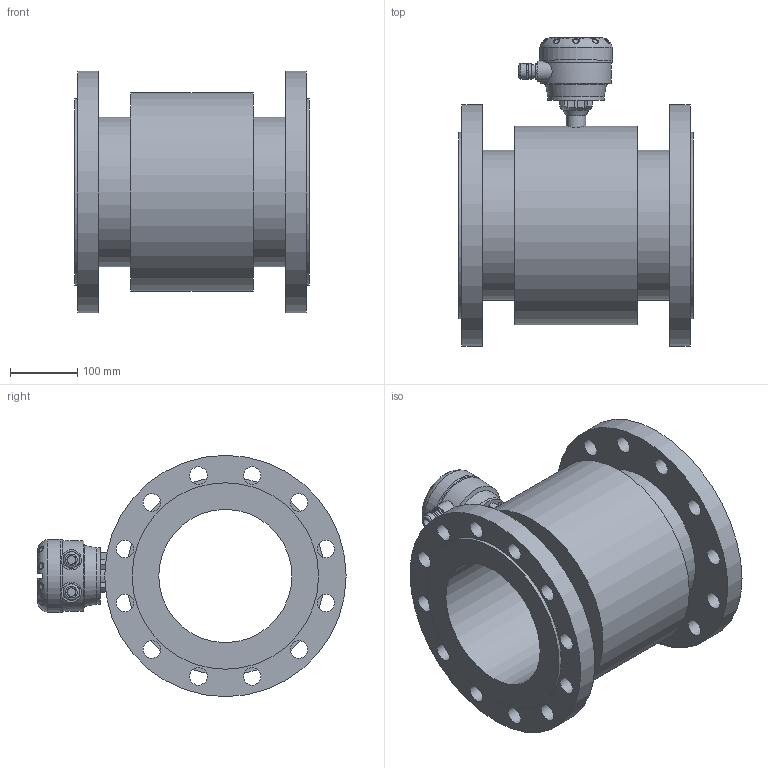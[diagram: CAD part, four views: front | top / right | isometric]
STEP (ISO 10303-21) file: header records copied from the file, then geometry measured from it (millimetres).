
FILE_DESCRIPTION (( 'STEP AP203' ), '1' );
FILE_NAME ('KROHNE_OPTIFLUX_2-4000W_DIN2634_DN200_PN25.STEP', '2011-04-26T11:25:04', ( '' ), ( '' ), 'SwSTEP 2.0', 'SolidWorks 2010', '' );
FILE_SCHEMA (( 'CONFIG_CONTROL_DESIGN' ));
Length unit declared in the file: millimetre
Products named in the file (1): KROHNE_OPTIFLUX_2-4000W_DIN2634_DN200_PN25
Bounding box: 350 x 459.49 x 360 mm (x, y, z)
Volume: 12664422.7 mm3; surface area: 995292.9 mm2
Topology: 14 solids, 14 shells, 351 faces, 869 edges, 568 vertices
Faces by surface type: plane 158, cylinder 101, bspline 53, torus 18, sphere 13, cone 8
Full cylindrical faces by diameter (mm): 4 x4, 6.6 x8, 13 x2, 20 x2, 23.5 x4, 26 x24, 29 x1, 30 x2, 84 x2, 109 x1, 198.6 x1, 223.6 x2, 278 x2, 296 x1, 360 x2
Entity records: 14264 total; most frequent: CARTESIAN_POINT 6539, ORIENTED_EDGE 1494, DIRECTION 1461, EDGE_CURVE 747, AXIS2_PLACEMENT_3D 549, EDGE_LOOP 534, VERTEX_POINT 531, FACE_OUTER_BOUND 426
